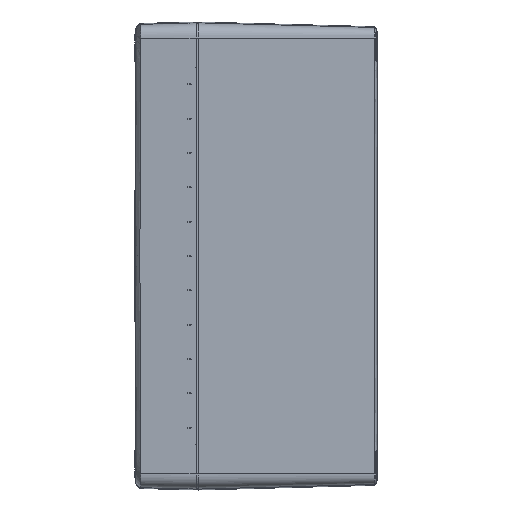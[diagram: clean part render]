
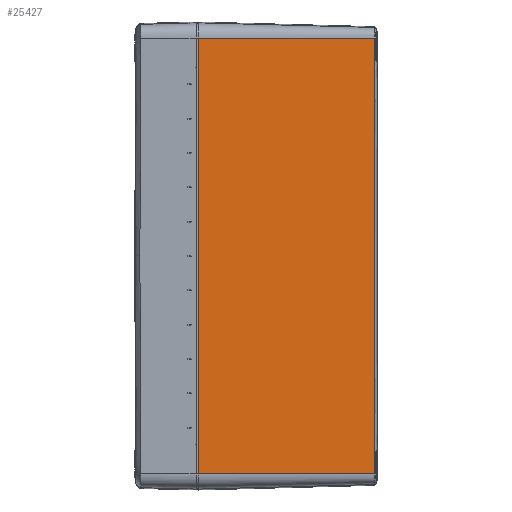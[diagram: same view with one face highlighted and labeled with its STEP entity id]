
A CAD part, left-side view. The second image highlights one B-rep face of the part: STEP entity #25427.
In plain terms, the highlighted planar face has unit normal (-1, -0.026, 0).
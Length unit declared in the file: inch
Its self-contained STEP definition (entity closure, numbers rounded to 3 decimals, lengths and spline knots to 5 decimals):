
#644 = VERTEX_POINT ( 'NONE', #41236 ) ;
#3528 = EDGE_LOOP ( 'NONE', ( #82776, #156722, #144805, #33110 ) ) ;
#10412 = VECTOR ( 'NONE', #151768, 39.37008 ) ;
#13764 = CARTESIAN_POINT ( 'NONE',  ( -5.5, 2.965, -3.60995 ) ) ;
#16392 = EDGE_CURVE ( 'NONE', #106638, #30921, #159921, .T. ) ;
#21279 = EDGE_CURVE ( 'NONE', #644, #106638, #91117, .T. ) ;
#25427 = ADVANCED_FACE ( 'Face2', ( #57838 ), #28453, .T. ) ;
#28453 = PLANE ( 'NONE',  #114380 ) ;
#29322 = CARTESIAN_POINT ( 'NONE',  ( -5.42359, 0.04699, 1.20332 ) ) ;
#30921 = VERTEX_POINT ( 'NONE', #75218 ) ;
#32204 = CARTESIAN_POINT ( 'NONE',  ( -5.42359, 0.04699, 3.60995 ) ) ;
#33110 = ORIENTED_EDGE ( 'NONE', *, *, #21279, .F. ) ;
#41236 = CARTESIAN_POINT ( 'NONE',  ( -5.5, 2.965, -3.60995 ) ) ;
#46678 = CARTESIAN_POINT ( 'NONE',  ( -5.5, 2.965, 3.60995 ) ) ;
#57838 = FACE_OUTER_BOUND ( 'NONE', #3528, .T. ) ;
#59641 = DIRECTION ( 'NONE',  ( 0.026, -1., 0. ) ) ;
#75215 = CARTESIAN_POINT ( 'NONE',  ( -5.42359, 0.04698, -3.60995 ) ) ;
#75218 = CARTESIAN_POINT ( 'NONE',  ( -5.42359, 0.04699, 3.60995 ) ) ;
#80273 = VECTOR ( 'NONE', #59641, 39.37008 ) ;
#82776 = ORIENTED_EDGE ( 'NONE', *, *, #87281, .T. ) ;
#85942 = B_SPLINE_CURVE_WITH_KNOTS ( 'NONE', 3,
 ( #106642, #166299, #29322, #32204 ),
 .UNSPECIFIED., .F., .F.,
 ( 4, 4 ),
 ( 0., 1. ),
 .UNSPECIFIED. ) ;
#87281 = EDGE_CURVE ( 'NONE', #644, #95988, #149711, .T. ) ;
#88188 = DIRECTION ( 'NONE',  ( 0.026, -1., 0. ) ) ;
#91117 = LINE ( 'NONE', #149863, #10412 ) ;
#95988 = VERTEX_POINT ( 'NONE', #75215 ) ;
#100246 = DIRECTION ( 'NONE',  ( 0.026, -1., 0. ) ) ;
#106638 = VERTEX_POINT ( 'NONE', #46678 ) ;
#106642 = CARTESIAN_POINT ( 'NONE',  ( -5.42359, 0.04698, -3.60995 ) ) ;
#114380 = AXIS2_PLACEMENT_3D ( 'NONE', #13764, #164477, #88188 ) ;
#117044 = EDGE_CURVE ( 'NONE', #95988, #30921, #85942, .T. ) ;
#131790 = VECTOR ( 'NONE', #100246, 39.37008 ) ;
#141422 = CARTESIAN_POINT ( 'NONE',  ( -5.5, 2.965, 3.60995 ) ) ;
#144805 = ORIENTED_EDGE ( 'NONE', *, *, #16392, .F. ) ;
#148741 = CARTESIAN_POINT ( 'NONE',  ( -5.5, 2.965, -3.60995 ) ) ;
#149711 = LINE ( 'NONE', #148741, #80273 ) ;
#149863 = CARTESIAN_POINT ( 'NONE',  ( -5.5, 2.965, -3.60995 ) ) ;
#151768 = DIRECTION ( 'NONE',  ( 0., 0., 1. ) ) ;
#156722 = ORIENTED_EDGE ( 'NONE', *, *, #117044, .T. ) ;
#159921 = LINE ( 'NONE', #141422, #131790 ) ;
#164477 = DIRECTION ( 'NONE',  ( -1., -0.026, 0. ) ) ;
#166299 = CARTESIAN_POINT ( 'NONE',  ( -5.42359, 0.04699, -1.20332 ) ) ;
